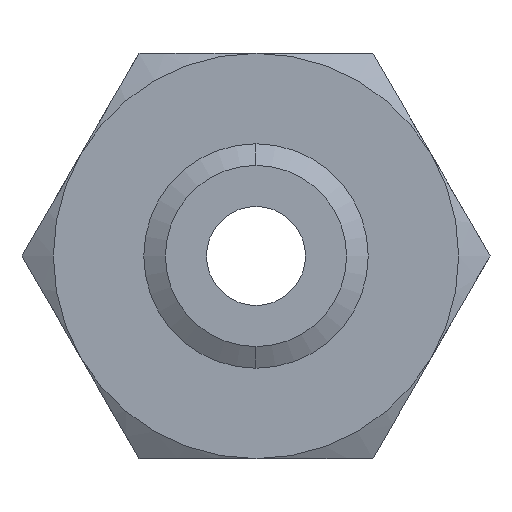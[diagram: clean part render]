
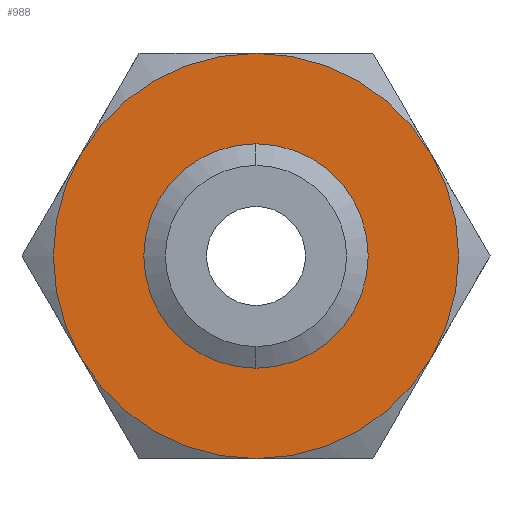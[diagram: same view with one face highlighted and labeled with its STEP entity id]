
A CAD part, front view. The second image highlights one B-rep face of the part: STEP entity #988.
In plain terms, the highlighted planar face has unit normal (0, -1, 0).
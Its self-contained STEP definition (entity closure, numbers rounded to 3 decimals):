
#78 = VERTEX_POINT ( 'NONE', #494 ) ;
#99 = ORIENTED_EDGE ( 'NONE', *, *, #1983, .F. ) ;
#152 = EDGE_CURVE ( 'NONE', #153, #154, #615, .T. ) ;
#153 = VERTEX_POINT ( 'NONE', #607 ) ;
#154 = VERTEX_POINT ( 'NONE', #606 ) ;
#494 = CARTESIAN_POINT ( 'NONE',  ( -28.146, 0., 16.25 ) ) ;
#606 = CARTESIAN_POINT ( 'NONE',  ( 0., 0., 14.536 ) ) ;
#607 = CARTESIAN_POINT ( 'NONE',  ( 0., 0., -14.536 ) ) ;
#608 = DIRECTION ( 'NONE',  ( 0., 0., -1. ) ) ;
#609 = DIRECTION ( 'NONE',  ( 0., -1., 0. ) ) ;
#610 = CARTESIAN_POINT ( 'NONE',  ( 0., 0., 0. ) ) ;
#611 = AXIS2_PLACEMENT_3D ( 'NONE', #610, #609, #608 ) ;
#615 = CIRCLE ( 'NONE', #611, 14.536 ) ;
#939 = ORIENTED_EDGE ( 'NONE', *, *, #973, .F. ) ;
#943 = EDGE_LOOP ( 'NONE', ( #939, #976, #1964, #1962, #1958, #99 ) ) ;
#972 = VERTEX_POINT ( 'NONE', #1383 ) ;
#973 = EDGE_CURVE ( 'NONE', #975, #972, #1379, .T. ) ;
#974 = EDGE_CURVE ( 'NONE', #78, #975, #1373, .T. ) ;
#975 = VERTEX_POINT ( 'NONE', #1374 ) ;
#976 = ORIENTED_EDGE ( 'NONE', *, *, #974, .F. ) ;
#988 = ADVANCED_FACE ( 'NONE', ( #1415, #1414 ), #1413, .F. ) ;
#1369 = DIRECTION ( 'NONE',  ( 0., 0., 1. ) ) ;
#1370 = DIRECTION ( 'NONE',  ( 0., 1., 0. ) ) ;
#1371 = CARTESIAN_POINT ( 'NONE',  ( 0., 0., 0. ) ) ;
#1372 = AXIS2_PLACEMENT_3D ( 'NONE', #1371, #1370, #1369 ) ;
#1373 = CIRCLE ( 'NONE', #1372, 32.5 ) ;
#1374 = CARTESIAN_POINT ( 'NONE',  ( 0., 0., 32.5 ) ) ;
#1375 = DIRECTION ( 'NONE',  ( 0., 0., 1. ) ) ;
#1376 = DIRECTION ( 'NONE',  ( 0., 1., 0. ) ) ;
#1377 = CARTESIAN_POINT ( 'NONE',  ( 0., 0., 0. ) ) ;
#1378 = AXIS2_PLACEMENT_3D ( 'NONE', #1377, #1376, #1375 ) ;
#1379 = CIRCLE ( 'NONE', #1378, 32.5 ) ;
#1383 = CARTESIAN_POINT ( 'NONE',  ( 28.146, 0., 16.25 ) ) ;
#1408 = DIRECTION ( 'NONE',  ( 0., 0., 1. ) ) ;
#1409 = DIRECTION ( 'NONE',  ( 0., 1., 0. ) ) ;
#1410 = CARTESIAN_POINT ( 'NONE',  ( 18.764, 0., -32.5 ) ) ;
#1412 = AXIS2_PLACEMENT_3D ( 'NONE', #1410, #1409, #1408 ) ;
#1413 = PLANE ( 'NONE',  #1412 ) ;
#1414 = FACE_BOUND ( 'NONE', #1970, .T. ) ;
#1415 = FACE_OUTER_BOUND ( 'NONE', #943, .T. ) ;
#1471 = CARTESIAN_POINT ( 'NONE',  ( -28.146, 0., -16.25 ) ) ;
#1476 = CARTESIAN_POINT ( 'NONE',  ( 0., 0., -32.5 ) ) ;
#1477 = DIRECTION ( 'NONE',  ( 0., 0., 1. ) ) ;
#1478 = DIRECTION ( 'NONE',  ( 0., 1., 0. ) ) ;
#1479 = CARTESIAN_POINT ( 'NONE',  ( 0., 0., 0. ) ) ;
#1480 = AXIS2_PLACEMENT_3D ( 'NONE', #1479, #1478, #1477 ) ;
#1481 = CIRCLE ( 'NONE', #1480, 32.5 ) ;
#1497 = DIRECTION ( 'NONE',  ( 0., 0., 1. ) ) ;
#1498 = DIRECTION ( 'NONE',  ( 0., 1., 0. ) ) ;
#1499 = CARTESIAN_POINT ( 'NONE',  ( 0., 0., 0. ) ) ;
#1500 = AXIS2_PLACEMENT_3D ( 'NONE', #1499, #1498, #1497 ) ;
#1501 = CIRCLE ( 'NONE', #1500, 32.5 ) ;
#1507 = DIRECTION ( 'NONE',  ( 0., 0., -1. ) ) ;
#1508 = DIRECTION ( 'NONE',  ( 0., -1., 0. ) ) ;
#1509 = CARTESIAN_POINT ( 'NONE',  ( 0., 0., 0. ) ) ;
#1510 = AXIS2_PLACEMENT_3D ( 'NONE', #1509, #1508, #1507 ) ;
#1511 = CIRCLE ( 'NONE', #1510, 14.536 ) ;
#1512 = DIRECTION ( 'NONE',  ( 0., 0., 1. ) ) ;
#1513 = DIRECTION ( 'NONE',  ( 0., 1., 0. ) ) ;
#1514 = CARTESIAN_POINT ( 'NONE',  ( 0., 0., 0. ) ) ;
#1515 = AXIS2_PLACEMENT_3D ( 'NONE', #1514, #1513, #1512 ) ;
#1516 = CIRCLE ( 'NONE', #1515, 32.5 ) ;
#1517 = CARTESIAN_POINT ( 'NONE',  ( 28.146, 0., -16.25 ) ) ;
#1518 = DIRECTION ( 'NONE',  ( 0., 0., 1. ) ) ;
#1519 = DIRECTION ( 'NONE',  ( 0., 1., 0. ) ) ;
#1520 = CARTESIAN_POINT ( 'NONE',  ( 0., 0., 0. ) ) ;
#1521 = AXIS2_PLACEMENT_3D ( 'NONE', #1520, #1519, #1518 ) ;
#1522 = CIRCLE ( 'NONE', #1521, 32.5 ) ;
#1958 = ORIENTED_EDGE ( 'NONE', *, *, #1974, .F. ) ;
#1959 = EDGE_CURVE ( 'NONE', #1963, #78, #1481, .T. ) ;
#1960 = VERTEX_POINT ( 'NONE', #1476 ) ;
#1962 = ORIENTED_EDGE ( 'NONE', *, *, #1976, .F. ) ;
#1963 = VERTEX_POINT ( 'NONE', #1471 ) ;
#1964 = ORIENTED_EDGE ( 'NONE', *, *, #1959, .F. ) ;
#1970 = EDGE_LOOP ( 'NONE', ( #1973, #1979 ) ) ;
#1973 = ORIENTED_EDGE ( 'NONE', *, *, #152, .F. ) ;
#1974 = EDGE_CURVE ( 'NONE', #1975, #1960, #1522, .T. ) ;
#1975 = VERTEX_POINT ( 'NONE', #1517 ) ;
#1976 = EDGE_CURVE ( 'NONE', #1960, #1963, #1516, .T. ) ;
#1978 = EDGE_CURVE ( 'NONE', #154, #153, #1511, .T. ) ;
#1979 = ORIENTED_EDGE ( 'NONE', *, *, #1978, .F. ) ;
#1983 = EDGE_CURVE ( 'NONE', #972, #1975, #1501, .T. ) ;
